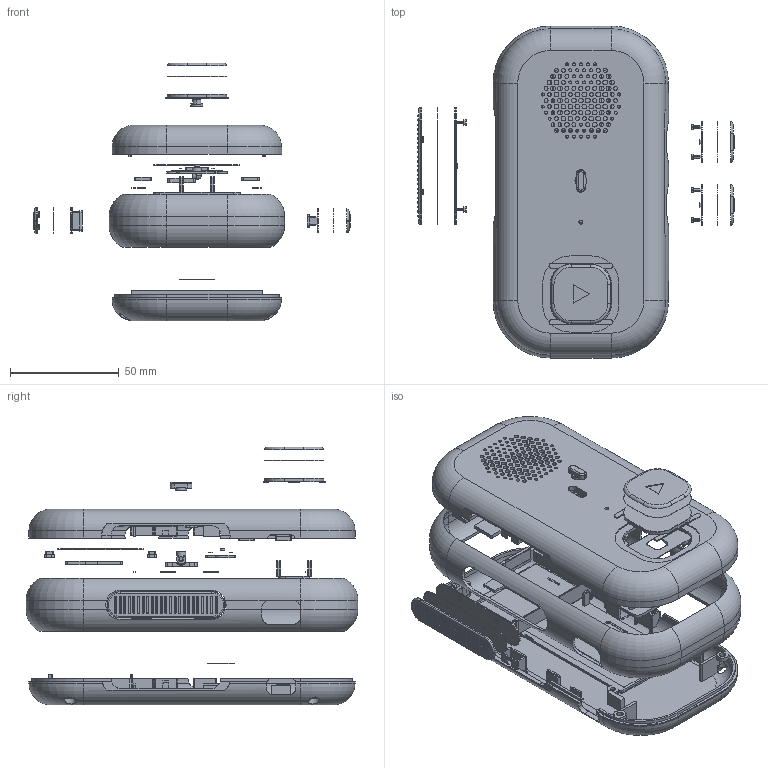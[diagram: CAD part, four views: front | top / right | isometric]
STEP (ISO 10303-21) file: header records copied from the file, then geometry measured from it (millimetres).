
FILE_DESCRIPTION(('Open CASCADE Model'),'2;1');
FILE_NAME('R2_ILLUSTRATIVE_EXPLOSION_NO_ELECTRONICS_OR_SCREWS', '2026-09-09T18:11:58',('Author'),('Open CASCADE'), 'Open CASCADE STEP processor 7.9','build123d','Unknown');
FILE_SCHEMA(('AUTOMOTIVE_DESIGN { 1 0 10303 214 1 1 1 1 }'));
Length unit declared in the file: millimetre
Products named in the file (68): R2_ILLUSTRATIVE_EXPLOSION_NO_ELECTRONICS_OR_SCREWS; C27_R2_01_Front_Shell_Chalk_Centered_Mic; C27_R2_02_Back_Shell_Chalk; C27_R2_03_Front_Action_Rigid_Carrier; C27_R2_04_Status_Lens; C27_R2_05_Front_Switch_Clamp; C27_R2_06_PTT_Rigid_Carrier; C27_R2_07_Volume_Up_Rigid_Carrier; C27_R2_08_Volume_Down_Rigid_Carrier; C27_R2_09_Warm_Grey_Elastomer_Rim; C27_R2_10_Front_Action_Pewter_Cap; C27_R2_11_Front_Action_Bond_Film; C27_R2_12_Volume_Up_Pewter_Cap; C27_R2_13_Volume_Up_Bond_Film; C27_R2_14_Volume_Down_Pewter_Cap; C27_R2_15_Volume_Down_Bond_Film; C27_R2_16_Orange_Ribbed_PTT_Grip; C27_R2_17_PTT_Bond_Film; C27_R2_PCB_Front_Seat_1; C27_R2_PCB_Rear_Preload_1; C27_R2_PCB_Front_Seat_2; C27_R2_PCB_Rear_Preload_2; C27_R2_PCB_Front_Seat_3; C27_R2_PCB_Rear_Preload_3; C27_R2_PCB_Front_Seat_4; C27_R2_PCB_Rear_Preload_4; C27_R2_Battery_Front_Pad_-1_Segment_1; C27_R2_Battery_Front_Pad_-1_Segment_2; C27_R2_Battery_Rear_Pad_-1; C27_R2_Battery_Side_Liner_-1; C27_R2_Battery_Front_Pad_1; C27_R2_Battery_Rear_Pad_1; C27_R2_Battery_Side_Liner_1; C27_R2_Battery_Lower_Liner; C27_R2_Battery_Upper_Liner_-1; C27_R2_Battery_Upper_Liner_1; C27_R2_Speaker_Front_Gasket; C27_R2_Speaker_Ear_Keeper_1; C27_R2_Speaker_Ear_Preload_1; C27_R2_Speaker_Ear_Keeper_2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
Assembly tree (67 placements, depth 3):
  R2_ILLUSTRATIVE_EXPLOSION_NO_ELECTRONICS_OR_SCREWS
    C27_R2_01_Front_Shell_Chalk_Centered_Mic
    C27_R2_02_Back_Shell_Chalk
    C27_R2_03_Front_Action_Rigid_Carrier
      C27_R2_03_Front_Action_Rigid_Carrier
    C27_R2_04_Status_Lens
      C27_R2_04_Status_Lens
    C27_R2_05_Front_Switch_Clamp
    C27_R2_06_PTT_Rigid_Carrier
    C27_R2_07_Volume_Up_Rigid_Carrier
    C27_R2_08_Volume_Down_Rigid_Carrier
    C27_R2_09_Warm_Grey_Elastomer_Rim
      C27_R2_09_Warm_Grey_Elastomer_Rim
    C27_R2_10_Front_Action_Pewter_Cap
      C27_R2_10_Front_Action_Pewter_Cap
    C27_R2_11_Front_Action_Bond_Film
      C27_R2_11_Front_Action_Bond_Film
    C27_R2_12_Volume_Up_Pewter_Cap
      C27_R2_12_Volume_Up_Pewter_Cap
    C27_R2_13_Volume_Up_Bond_Film
      C27_R2_13_Volume_Up_Bond_Film
    C27_R2_14_Volume_Down_Pewter_Cap
      C27_R2_14_Volume_Down_Pewter_Cap
    C27_R2_15_Volume_Down_Bond_Film
      C27_R2_15_Volume_Down_Bond_Film
    C27_R2_16_Orange_Ribbed_PTT_Grip
      C27_R2_16_Orange_Ribbed_PTT_Grip
    C27_R2_17_PTT_Bond_Film
      C27_R2_17_PTT_Bond_Film
    C27_R2_PCB_Front_Seat_1
    C27_R2_PCB_Rear_Preload_1
    C27_R2_PCB_Front_Seat_2
    C27_R2_PCB_Rear_Preload_2
    C27_R2_PCB_Front_Seat_3
    C27_R2_PCB_Rear_Preload_3
    C27_R2_PCB_Front_Seat_4
    C27_R2_PCB_Rear_Preload_4
    C27_R2_Battery_Front_Pad_-1_Segment_1
    C27_R2_Battery_Front_Pad_-1_Segment_2
    C27_R2_Battery_Rear_Pad_-1
    C27_R2_Battery_Side_Liner_-1
    C27_R2_Battery_Front_Pad_1
    C27_R2_Battery_Rear_Pad_1
    C27_R2_Battery_Side_Liner_1
    C27_R2_Battery_Lower_Liner
    C27_R2_Battery_Upper_Liner_-1
    C27_R2_Battery_Upper_Liner_1
    C27_R2_Speaker_Front_Gasket
    C27_R2_Speaker_Ear_Keeper_1
    C27_R2_Speaker_Ear_Preload_1
    C27_R2_Speaker_Ear_Keeper_2
    C27_R2_Speaker_Ear_Preload_2
    C27_R2_Microphone_Removable_Keeper
    C27_R2_Microphone_Rear_Preload
    C27_R2_Mic_Front_Seat_1
    C27_R2_Mic_Front_Seat_2
    C27_R2_Mic_Front_Seat_3
    C27_R2_Mic_Front_Seat_4
    C27_R2_Microphone_Acoustic_Seal
    C27_R2_Microphone_Acoustic_Membrane
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Bounding box: 145.35 x 152.7 x 118.55 mm (x, y, z)
Volume: 87336.8 mm3; surface area: 122240.9 mm2
Topology: 56 solids, 56 shells, 3489 faces, 9470 edges, 6185 vertices
Faces by surface type: plane 1690, cylinder 1256, bspline 352, torus 178, cone 10, sphere 3
Full cylindrical faces by diameter (mm): 1.4 x32, 1.5 x5, 1.7 x26, 1.8 x49, 2.1 x4, 2.2 x44, 2.3 x12, 2.6 x6, 2.8 x4, 2.9 x4, 3 x3, 4.2 x6, 5 x1, 5.1 x4, 5.3 x1, 5.4 x1, 5.5 x1, 35.8 x1, 39.6 x1
Entity records: 259700 total; most frequent: CARTESIAN_POINT 75538, DIRECTION 32493, LINE 19147, VECTOR 19147, ORIENTED_EDGE 18938, PCURVE 18938, DEFINITIONAL_REPRESENTATION 18938, EDGE_CURVE 9469
